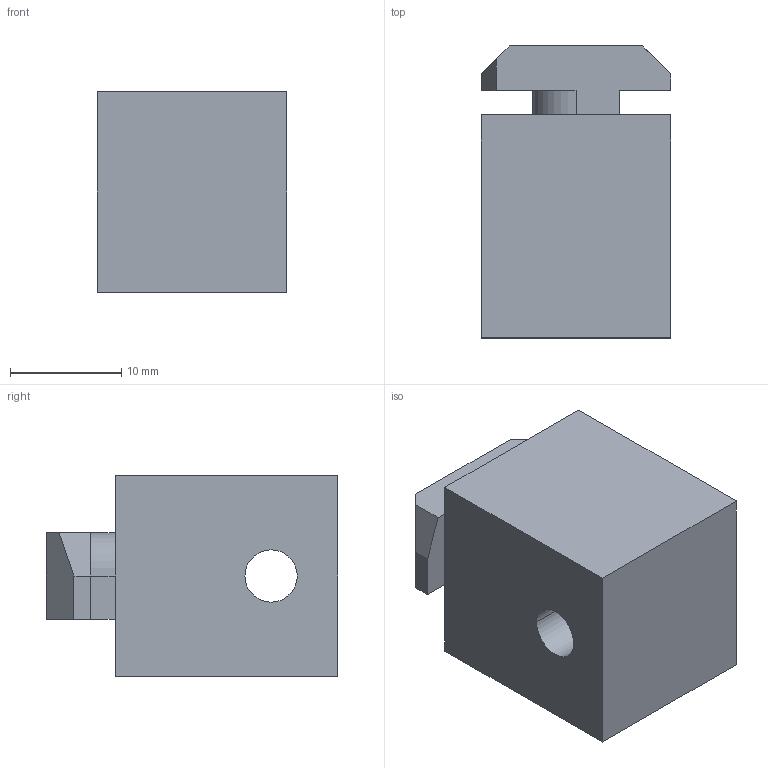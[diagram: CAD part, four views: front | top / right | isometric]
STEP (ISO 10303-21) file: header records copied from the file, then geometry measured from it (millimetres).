
FILE_DESCRIPTION((''),'2;1');
FILE_NAME('BFP30','2002-12-27T',('Lipro doo'),('Lipro d.o.o.'),'PRO/ENGINEER BY PARAMETRIC TECHNOLOGY CORPORATION, 2001150','PRO/ENGINEER BY PARAMETRIC TECHNOLOGY CORPORATION, 2001150','');
FILE_SCHEMA(('CONFIG_CONTROL_DESIGN'));
Length unit declared in the file: millimetre
Products named in the file (1): BFP30
Bounding box: 17 x 26.2 x 18 mm (x, y, z)
Volume: 6416 mm3; surface area: 2597 mm2
Topology: 1 solids, 1 shells, 23 faces, 60 edges, 40 vertices
Faces by surface type: plane 19, cylinder 4
Entity records: 744 total; most frequent: CARTESIAN_POINT 123, ORIENTED_EDGE 120, DIRECTION 114, EDGE_CURVE 60, VECTOR 52, LINE 52, VERTEX_POINT 40, AXIS2_PLACEMENT_3D 31
